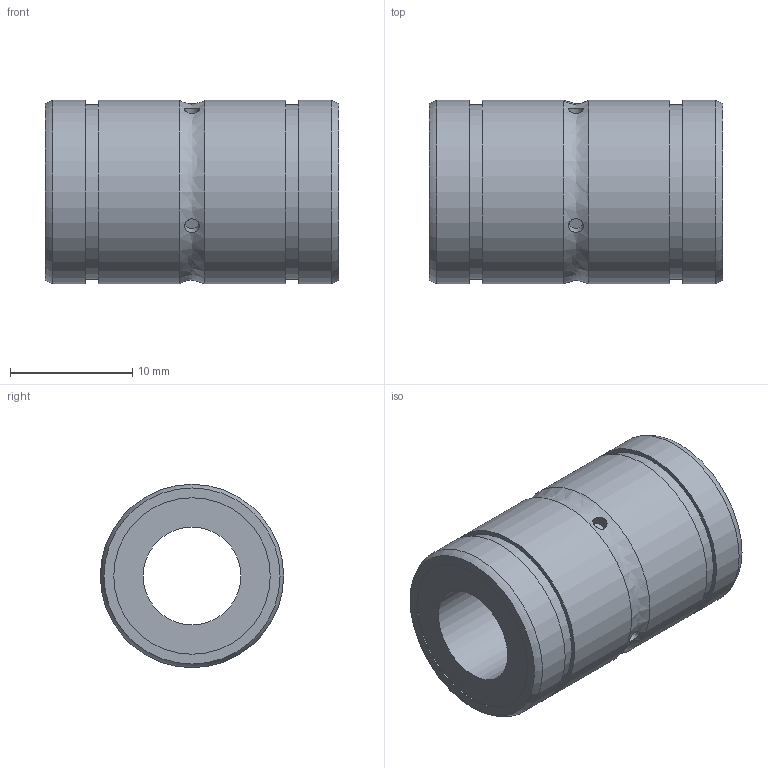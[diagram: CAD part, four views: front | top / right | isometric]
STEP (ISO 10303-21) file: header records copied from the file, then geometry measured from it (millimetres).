
FILE_DESCRIPTION((''),'2;1');
FILE_NAME('D:\製品 (図面)\カタログ用3D\リニアベアリング関連\STEP形式\L-OH\L8-OH.stp','2010-06-04T09:28:55',('Tsuchiya'),(''),'Autodesk Inventor 10','Autodesk Inventor 10','');
FILE_SCHEMA(('AUTOMOTIVE_DESIGN { 1 0 10303 214 1 1 1 1 }'));
Length unit declared in the file: millimetre
Products named in the file (1): L8-OH
Bounding box: 24 x 15 x 15 mm (x, y, z)
Volume: 2951.9 mm3; surface area: 2042.4 mm2
Topology: 1 solids, 1 shells, 28 faces, 48 edges, 32 vertices
Faces by surface type: cylinder 13, plane 8, bspline 5, torus 2
Full cylindrical faces by diameter (mm): 8 x1, 12.8 x2, 14.3 x2, 15 x4
Entity records: 1015 total; most frequent: CARTESIAN_POINT 553, DIRECTION 88, ORIENTED_EDGE 56, EDGE_LOOP 56, AXIS2_PLACEMENT_3D 44, VERTEX_POINT 28, EDGE_CURVE 28, FACE_OUTER_BOUND 28
